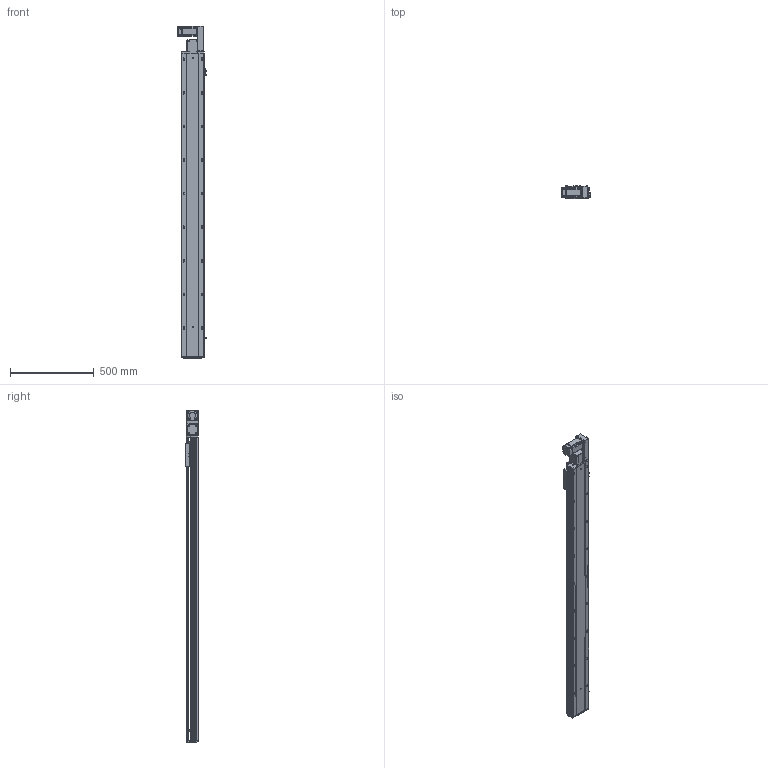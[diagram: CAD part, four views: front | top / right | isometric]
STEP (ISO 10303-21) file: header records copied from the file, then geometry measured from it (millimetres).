
FILE_DESCRIPTION (( 'STEP AP203' ), '1' );
FILE_NAME ('RY140-T-300-RK.SLDASM_1550.step', '2021-03-01T06:46:36', ( '盈信电脑' ), ( '东莞市道滘镇水果街19号' ), 'SwSTEP 2.0', 'SolidWorks 2012', '' );
FILE_SCHEMA (( 'CONFIG_CONTROL_DESIGN' ));
Length unit declared in the file: millimetre
Products named in the file (17): RY140-T-300-RK.SLDASM_1550; RY140-T萇儂假蚾啣; 15; RY120-T蹟翐M4; RY120-T主同步轮轴承压盖; RY140-T翋肮謫裔啣; RY140-T萇儂欶; 滅袉蝶18-10; RY120-T肮祭湍揤踡輸2; RY120-T肮祭湍揤踡輸1; RY120外置感应片(140共用）; RY140-T翋肮祭謫盓傅釱; RY140肮祭謫臏賑輸; RY140綴裔啣; 覜茼ん672; RY140-T-300-DR倰第奻裔啣_1550; RY140-T-300-DR倰第菁釱_1550
Assembly tree (22 placements, depth 2):
  RY140-T-300-RK.SLDASM_1550
    RY140-T-300-DR倰第菁釱_1550
    RY140肮祭謫臏賑輸
    RY140-T-300-DR倰第奻裔啣_1550
    RY140綴裔啣
    覜茼ん672  x3
    RY120外置感应片(140共用）
    RY120-T肮祭湍揤踡輸2
    RY120-T肮祭湍揤踡輸1
    RY140-T翋肮祭謫盓傅釱
    滅袉蝶18-10  x2
    RY140-T翋肮謫裔啣
    RY140-T萇儂欶
    RY140-T萇儂假蚾啣
    RY120-T蹟翐M4  x4
    15
    RY120-T主同步轮轴承压盖
Bounding box: 170.7 x 78 x 1976.5 mm (x, y, z)
Volume: 5313452.6 mm3; surface area: 2061327.2 mm2
Topology: 22 solids, 22 shells, 2775 faces, 7597 edges, 4848 vertices
Faces by surface type: plane 1381, cylinder 1036, cone 258, bspline 100
Entity records: 87462 total; most frequent: CARTESIAN_POINT 21255, ORIENTED_EDGE 13602, DIRECTION 12997, EDGE_CURVE 6801, VERTEX_POINT 4447, AXIS2_PLACEMENT_3D 4342, LINE 4313, VECTOR 4313
